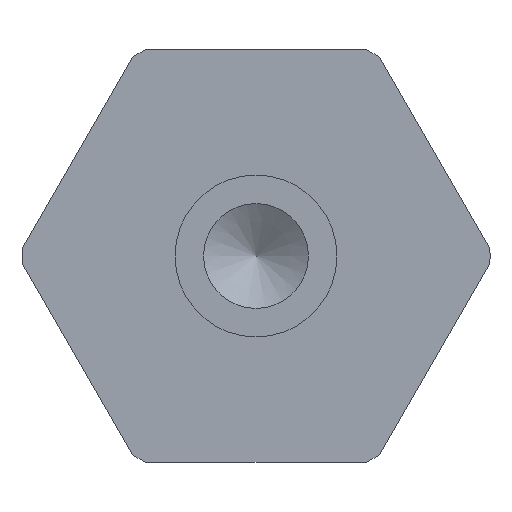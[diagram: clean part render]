
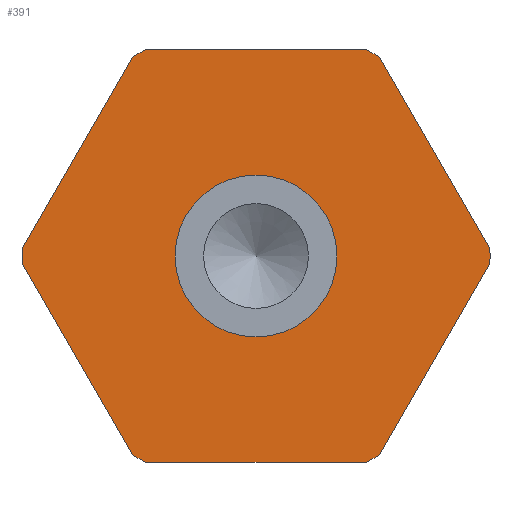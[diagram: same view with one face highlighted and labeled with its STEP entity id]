
A CAD part, left-side view. The second image highlights one B-rep face of the part: STEP entity #391.
In plain terms, the highlighted planar face has unit normal (-1, 0, 0).
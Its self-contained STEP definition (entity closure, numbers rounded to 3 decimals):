
#19=LINE($,#621,#43);
#22=LINE($,#627,#46);
#25=LINE($,#633,#49);
#28=LINE($,#639,#52);
#31=LINE($,#645,#55);
#33=LINE($,#653,#57);
#43=VECTOR($,#497,3.394);
#46=VECTOR($,#502,3.394);
#49=VECTOR($,#507,3.394);
#52=VECTOR($,#512,3.394);
#55=VECTOR($,#517,3.394);
#57=VECTOR($,#525,3.394);
#67=PLANE($,#429);
#76=FACE_BOUND($,#131,.T.);
#77=FACE_BOUND($,#132,.T.);
#131=EDGE_LOOP($,(#298));
#132=EDGE_LOOP($,(#299,#300,#301,#302,#303,#304,#305,#306,#307,#308,#309,
#310));
#165=CIRCLE($,#430,1.245);
#166=CIRCLE($,#431,3.6);
#167=CIRCLE($,#432,3.6);
#168=CIRCLE($,#433,3.6);
#169=CIRCLE($,#434,3.6);
#170=CIRCLE($,#435,3.6);
#171=CIRCLE($,#436,3.6);
#194=VERTEX_POINT($,#618);
#195=VERTEX_POINT($,#620);
#196=VERTEX_POINT($,#624);
#197=VERTEX_POINT($,#626);
#198=VERTEX_POINT($,#630);
#199=VERTEX_POINT($,#632);
#200=VERTEX_POINT($,#636);
#201=VERTEX_POINT($,#638);
#202=VERTEX_POINT($,#642);
#203=VERTEX_POINT($,#644);
#204=VERTEX_POINT($,#648);
#205=VERTEX_POINT($,#650);
#206=VERTEX_POINT($,#652);
#230=EDGE_CURVE($,#195,#194,#19,.T.);
#233=EDGE_CURVE($,#197,#196,#22,.T.);
#236=EDGE_CURVE($,#199,#198,#25,.T.);
#239=EDGE_CURVE($,#201,#200,#28,.T.);
#242=EDGE_CURVE($,#203,#202,#31,.T.);
#244=EDGE_CURVE($,#204,#204,#165,.T.);
#245=EDGE_CURVE($,#194,#205,#166,.T.);
#246=EDGE_CURVE($,#205,#206,#33,.T.);
#247=EDGE_CURVE($,#206,#203,#167,.T.);
#248=EDGE_CURVE($,#202,#201,#168,.T.);
#249=EDGE_CURVE($,#200,#199,#169,.T.);
#250=EDGE_CURVE($,#198,#197,#170,.T.);
#251=EDGE_CURVE($,#196,#195,#171,.T.);
#298=ORIENTED_EDGE($,*,*,#244,.F.);
#299=ORIENTED_EDGE($,*,*,#230,.T.);
#300=ORIENTED_EDGE($,*,*,#245,.T.);
#301=ORIENTED_EDGE($,*,*,#246,.T.);
#302=ORIENTED_EDGE($,*,*,#247,.T.);
#303=ORIENTED_EDGE($,*,*,#242,.T.);
#304=ORIENTED_EDGE($,*,*,#248,.T.);
#305=ORIENTED_EDGE($,*,*,#239,.T.);
#306=ORIENTED_EDGE($,*,*,#249,.T.);
#307=ORIENTED_EDGE($,*,*,#236,.T.);
#308=ORIENTED_EDGE($,*,*,#250,.T.);
#309=ORIENTED_EDGE($,*,*,#233,.T.);
#310=ORIENTED_EDGE($,*,*,#251,.T.);
#391=ADVANCED_FACE($,(#76,#77),#67,.T.);
#429=AXIS2_PLACEMENT_3D($,#647,#519,#520);
#430=AXIS2_PLACEMENT_3D($,#649,#521,#522);
#431=AXIS2_PLACEMENT_3D($,#651,#523,#524);
#432=AXIS2_PLACEMENT_3D($,#654,#526,#527);
#433=AXIS2_PLACEMENT_3D($,#655,#528,#529);
#434=AXIS2_PLACEMENT_3D($,#656,#530,#531);
#435=AXIS2_PLACEMENT_3D($,#657,#532,#533);
#436=AXIS2_PLACEMENT_3D($,#658,#534,#535);
#497=DIRECTION($,(0.,-1.,0.));
#502=DIRECTION($,(0.,-0.5,-0.866));
#507=DIRECTION($,(0.,0.5,-0.866));
#512=DIRECTION($,(0.,1.,0.));
#517=DIRECTION($,(0.,0.5,0.866));
#519=DIRECTION('center_axis',(-1.,0.,0.));
#520=DIRECTION('ref_axis',(0.,0.866,0.5));
#521=DIRECTION('center_axis',(-1.,0.,0.));
#522=DIRECTION('ref_axis',(0.,0.5,-0.866));
#523=DIRECTION('center_axis',(-1.,0.,0.));
#524=DIRECTION('ref_axis',(0.,0.5,-0.866));
#525=DIRECTION($,(0.,-0.5,0.866));
#526=DIRECTION('center_axis',(-1.,0.,0.));
#527=DIRECTION('ref_axis',(0.,0.5,-0.866));
#528=DIRECTION('center_axis',(-1.,0.,0.));
#529=DIRECTION('ref_axis',(0.,0.5,-0.866));
#530=DIRECTION('center_axis',(-1.,0.,0.));
#531=DIRECTION('ref_axis',(0.,0.5,-0.866));
#532=DIRECTION('center_axis',(-1.,0.,0.));
#533=DIRECTION('ref_axis',(0.,0.5,-0.866));
#534=DIRECTION('center_axis',(-1.,0.,0.));
#535=DIRECTION('ref_axis',(0.,0.5,-0.866));
#618=CARTESIAN_POINT('',(-1.575,-1.697,-3.175));
#620=CARTESIAN_POINT('',(-1.575,1.697,-3.175));
#621=CARTESIAN_POINT($,(-1.575,0.601,-3.175));
#624=CARTESIAN_POINT('',(-1.575,1.901,-3.057));
#626=CARTESIAN_POINT('',(-1.575,3.598,-0.118));
#627=CARTESIAN_POINT($,(-1.575,2.445,-2.116));
#630=CARTESIAN_POINT('',(-1.575,3.598,0.118));
#632=CARTESIAN_POINT('',(-1.575,1.901,3.057));
#633=CARTESIAN_POINT($,(-1.575,3.357,0.535));
#636=CARTESIAN_POINT('',(-1.575,1.697,3.175));
#638=CARTESIAN_POINT('',(-1.575,-1.697,3.175));
#639=CARTESIAN_POINT($,(-1.575,0.61,3.175));
#642=CARTESIAN_POINT('',(-1.575,-1.901,3.057));
#644=CARTESIAN_POINT('',(-1.575,-3.598,0.118));
#645=CARTESIAN_POINT($,(-1.575,-3.05,1.067));
#647=CARTESIAN_POINT('Origin',(-1.575,1.211,-2.098));
#648=CARTESIAN_POINT('',(-1.575,0.622,-1.078));
#649=CARTESIAN_POINT('Origin',(-1.575,0.,0.));
#650=CARTESIAN_POINT('',(-1.575,-1.901,-3.057));
#651=CARTESIAN_POINT('Origin',(-1.575,0.,0.));
#652=CARTESIAN_POINT('',(-1.575,-3.598,-0.118));
#653=CARTESIAN_POINT($,(-1.575,-2.146,-2.633));
#654=CARTESIAN_POINT('Origin',(-1.575,0.,0.));
#655=CARTESIAN_POINT('Origin',(-1.575,0.,0.));
#656=CARTESIAN_POINT('Origin',(-1.575,0.,0.));
#657=CARTESIAN_POINT('Origin',(-1.575,0.,0.));
#658=CARTESIAN_POINT('Origin',(-1.575,0.,0.));
